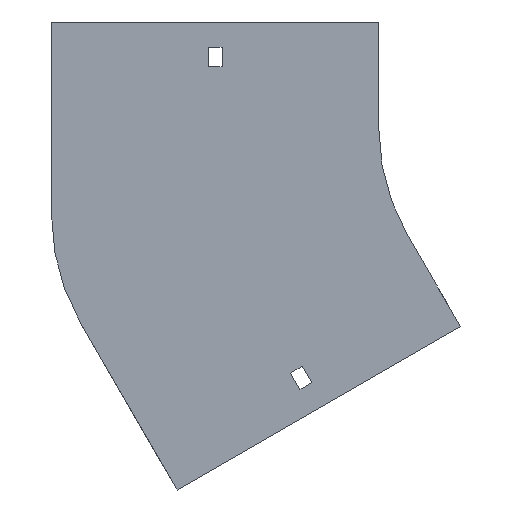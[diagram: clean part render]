
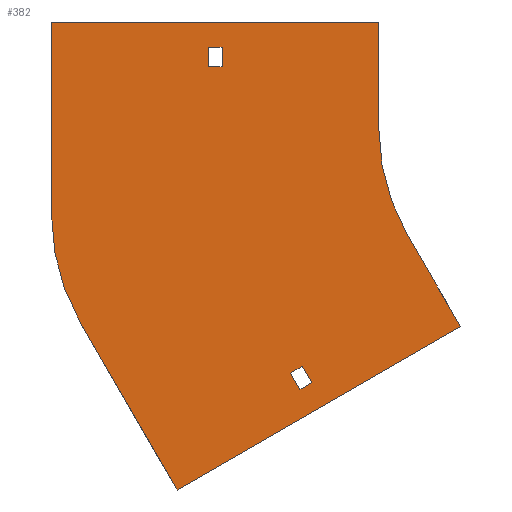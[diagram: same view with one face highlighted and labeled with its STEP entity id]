
A CAD part, front view. The second image highlights one B-rep face of the part: STEP entity #382.
In plain terms, the highlighted planar face has unit normal (0, -1, 0).
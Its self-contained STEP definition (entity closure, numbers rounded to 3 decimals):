
#18 = EDGE_CURVE ( 'NONE', #1760, #842, #1600, .T. ) ;
#24 = VERTEX_POINT ( 'NONE', #1779 ) ;
#37 = VERTEX_POINT ( 'NONE', #448 ) ;
#45 = CARTESIAN_POINT ( 'NONE',  ( -254., 0., 50. ) ) ;
#49 = LINE ( 'NONE', #1222, #1402 ) ;
#60 = DIRECTION ( 'NONE',  ( 0., 0., 1. ) ) ;
#67 = ORIENTED_EDGE ( 'NONE', *, *, #131, .F. ) ;
#71 = ORIENTED_EDGE ( 'NONE', *, *, #152, .F. ) ;
#72 = VECTOR ( 'NONE', #763, 1000. ) ;
#106 = EDGE_CURVE ( 'NONE', #394, #1276, #1884, .T. ) ;
#121 = CARTESIAN_POINT ( 'NONE',  ( 0., 0., 0. ) ) ;
#131 = EDGE_CURVE ( 'NONE', #842, #37, #1812, .T. ) ;
#139 = DIRECTION ( 'NONE',  ( 0., 0., -1. ) ) ;
#146 = VECTOR ( 'NONE', #1489, 1000. ) ;
#148 = LINE ( 'NONE', #575, #684 ) ;
#152 = EDGE_CURVE ( 'NONE', #298, #1059, #1867, .T. ) ;
#157 = LINE ( 'NONE', #1280, #409 ) ;
#167 = CARTESIAN_POINT ( 'NONE',  ( -194.97, 0., -170.301 ) ) ;
#198 = LINE ( 'NONE', #352, #1062 ) ;
#215 = LINE ( 'NONE', #1689, #1088 ) ;
#219 = CARTESIAN_POINT ( 'NONE',  ( -100., 0., 50. ) ) ;
#260 = ORIENTED_EDGE ( 'NONE', *, *, #1204, .T. ) ;
#298 = VERTEX_POINT ( 'NONE', #841 ) ;
#329 = CARTESIAN_POINT ( 'NONE',  ( -86.603, 0., -50. ) ) ;
#330 = ORIENTED_EDGE ( 'NONE', *, *, #802, .T. ) ;
#352 = CARTESIAN_POINT ( 'NONE',  ( -137.101, 0., -123.034 ) ) ;
#382 = ADVANCED_FACE ( 'NONE', ( #1435, #1897, #696 ), #1702, .T. ) ;
#389 = CARTESIAN_POINT ( 'NONE',  ( -194.97, 0., -170.301 ) ) ;
#394 = VERTEX_POINT ( 'NONE', #1312 ) ;
#409 = VECTOR ( 'NONE', #983, 1000. ) ;
#419 = DIRECTION ( 'NONE',  ( -1., 0., 0. ) ) ;
#424 = EDGE_CURVE ( 'NONE', #24, #1126, #148, .T. ) ;
#439 = EDGE_LOOP ( 'NONE', ( #1339, #536, #890, #1146, #1250, #67, #1314, #965 ) ) ;
#448 = CARTESIAN_POINT ( 'NONE',  ( -61.603, 0., -93.301 ) ) ;
#469 = CARTESIAN_POINT ( 'NONE',  ( -180.25, 0., 29. ) ) ;
#475 = VECTOR ( 'NONE', #1168, 1000. ) ;
#478 = DIRECTION ( 'NONE',  ( 1., 0., 0. ) ) ;
#501 = ORIENTED_EDGE ( 'NONE', *, *, #424, .T. ) ;
#536 = ORIENTED_EDGE ( 'NONE', *, *, #573, .F. ) ;
#564 = EDGE_CURVE ( 'NONE', #1368, #917, #1918, .T. ) ;
#572 = CARTESIAN_POINT ( 'NONE',  ( -254., 0., 50. ) ) ;
#573 = EDGE_CURVE ( 'NONE', #1276, #1368, #739, .T. ) ;
#575 = CARTESIAN_POINT ( 'NONE',  ( -173.75, 0., 29. ) ) ;
#595 = VECTOR ( 'NONE', #1665, 1000. ) ;
#596 = DIRECTION ( 'NONE',  ( 0., 0., 1. ) ) ;
#604 = AXIS2_PLACEMENT_3D ( 'NONE', #1097, #623, #60 ) ;
#623 = DIRECTION ( 'NONE',  ( 0., 1., 0. ) ) ;
#654 = CARTESIAN_POINT ( 'NONE',  ( -100., 0., 0. ) ) ;
#676 = CARTESIAN_POINT ( 'NONE',  ( -137.101, 0., -123.034 ) ) ;
#684 = VECTOR ( 'NONE', #1754, 1000. ) ;
#696 = FACE_BOUND ( 'NONE', #1800, .T. ) ;
#716 = EDGE_CURVE ( 'NONE', #917, #1760, #975, .T. ) ;
#718 = EDGE_CURVE ( 'NONE', #1852, #1594, #198, .T. ) ;
#721 = EDGE_CURVE ( 'NONE', #1594, #298, #1408, .T. ) ;
#739 = LINE ( 'NONE', #1320, #1566 ) ;
#748 = VECTOR ( 'NONE', #1876, 1000. ) ;
#753 = AXIS2_PLACEMENT_3D ( 'NONE', #121, #1191, #139 ) ;
#757 = CARTESIAN_POINT ( 'NONE',  ( -100., 0., 50. ) ) ;
#763 = DIRECTION ( 'NONE',  ( -0.5, 0., 0.866 ) ) ;
#786 = DIRECTION ( 'NONE',  ( -0.866, 0., -0.5 ) ) ;
#791 = DIRECTION ( 'NONE',  ( -0.5, 0., 0.866 ) ) ;
#802 = EDGE_CURVE ( 'NONE', #1126, #1349, #1598, .T. ) ;
#841 = CARTESIAN_POINT ( 'NONE',  ( -135.972, 0., -111.99 ) ) ;
#842 = VERTEX_POINT ( 'NONE', #329 ) ;
#854 = EDGE_CURVE ( 'NONE', #1892, #394, #1509, .T. ) ;
#865 = CARTESIAN_POINT ( 'NONE',  ( -180.25, 0., 29. ) ) ;
#890 = ORIENTED_EDGE ( 'NONE', *, *, #106, .F. ) ;
#914 = CARTESIAN_POINT ( 'NONE',  ( -180.25, 0., 38. ) ) ;
#917 = VERTEX_POINT ( 'NONE', #757 ) ;
#936 = AXIS2_PLACEMENT_3D ( 'NONE', #1105, #1284, #1406 ) ;
#965 = ORIENTED_EDGE ( 'NONE', *, *, #716, .F. ) ;
#975 = LINE ( 'NONE', #219, #1558 ) ;
#977 = EDGE_CURVE ( 'NONE', #37, #1892, #49, .T. ) ;
#979 = CARTESIAN_POINT ( 'NONE',  ( -173.75, 0., 29. ) ) ;
#983 = DIRECTION ( 'NONE',  ( 0.5, 0., -0.866 ) ) ;
#1033 = VECTOR ( 'NONE', #791, 1000. ) ;
#1059 = VERTEX_POINT ( 'NONE', #1859 ) ;
#1062 = VECTOR ( 'NONE', #1118, 1000. ) ;
#1071 = CARTESIAN_POINT ( 'NONE',  ( -86.603, 0., -50. ) ) ;
#1083 = DIRECTION ( 'NONE',  ( 0., 0., -1. ) ) ;
#1088 = VECTOR ( 'NONE', #478, 1000. ) ;
#1097 = CARTESIAN_POINT ( 'NONE',  ( -154., 0., -41.264 ) ) ;
#1105 = CARTESIAN_POINT ( 'NONE',  ( 0., 0., 0. ) ) ;
#1118 = DIRECTION ( 'NONE',  ( 0.866, 0., 0.5 ) ) ;
#1126 = VERTEX_POINT ( 'NONE', #979 ) ;
#1146 = ORIENTED_EDGE ( 'NONE', *, *, #854, .F. ) ;
#1149 = CARTESIAN_POINT ( 'NONE',  ( -254., 0., -41.264 ) ) ;
#1168 = DIRECTION ( 'NONE',  ( 1., 0., 0. ) ) ;
#1191 = DIRECTION ( 'NONE',  ( 0., -1., 0. ) ) ;
#1204 = EDGE_CURVE ( 'NONE', #1349, #1944, #1917, .T. ) ;
#1222 = CARTESIAN_POINT ( 'NONE',  ( -61.603, 0., -93.301 ) ) ;
#1236 = CARTESIAN_POINT ( 'NONE',  ( -135.972, 0., -111.99 ) ) ;
#1250 = ORIENTED_EDGE ( 'NONE', *, *, #977, .F. ) ;
#1276 = VERTEX_POINT ( 'NONE', #1149 ) ;
#1280 = CARTESIAN_POINT ( 'NONE',  ( -141.601, 0., -115.24 ) ) ;
#1284 = DIRECTION ( 'NONE',  ( 0., -1., 0. ) ) ;
#1312 = CARTESIAN_POINT ( 'NONE',  ( -240.603, 0., -91.264 ) ) ;
#1314 = ORIENTED_EDGE ( 'NONE', *, *, #18, .F. ) ;
#1315 = VECTOR ( 'NONE', #419, 1000. ) ;
#1317 = EDGE_LOOP ( 'NONE', ( #260, #1486, #501, #330 ) ) ;
#1319 = CARTESIAN_POINT ( 'NONE',  ( -180.25, 0., 29. ) ) ;
#1320 = CARTESIAN_POINT ( 'NONE',  ( -254., 0., -41.264 ) ) ;
#1339 = ORIENTED_EDGE ( 'NONE', *, *, #564, .F. ) ;
#1349 = VERTEX_POINT ( 'NONE', #469 ) ;
#1368 = VERTEX_POINT ( 'NONE', #45 ) ;
#1400 = EDGE_CURVE ( 'NONE', #1059, #1852, #157, .T. ) ;
#1402 = VECTOR ( 'NONE', #786, 1000. ) ;
#1406 = DIRECTION ( 'NONE',  ( 0., 0., -1. ) ) ;
#1408 = LINE ( 'NONE', #1236, #1033 ) ;
#1435 = FACE_BOUND ( 'NONE', #1317, .T. ) ;
#1466 = ORIENTED_EDGE ( 'NONE', *, *, #721, .F. ) ;
#1486 = ORIENTED_EDGE ( 'NONE', *, *, #1661, .T. ) ;
#1489 = DIRECTION ( 'NONE',  ( 0., 0., 1. ) ) ;
#1500 = ORIENTED_EDGE ( 'NONE', *, *, #718, .F. ) ;
#1509 = LINE ( 'NONE', #167, #72 ) ;
#1558 = VECTOR ( 'NONE', #1083, 1000. ) ;
#1566 = VECTOR ( 'NONE', #596, 1000. ) ;
#1594 = VERTEX_POINT ( 'NONE', #1631 ) ;
#1598 = LINE ( 'NONE', #865, #1315 ) ;
#1600 = CIRCLE ( 'NONE', #753, 100. ) ;
#1605 = ORIENTED_EDGE ( 'NONE', *, *, #1400, .F. ) ;
#1631 = CARTESIAN_POINT ( 'NONE',  ( -131.472, 0., -119.784 ) ) ;
#1661 = EDGE_CURVE ( 'NONE', #1944, #24, #215, .T. ) ;
#1665 = DIRECTION ( 'NONE',  ( 0.5, 0., -0.866 ) ) ;
#1689 = CARTESIAN_POINT ( 'NONE',  ( -180.25, 0., 38. ) ) ;
#1702 = PLANE ( 'NONE',  #936 ) ;
#1754 = DIRECTION ( 'NONE',  ( 0., 0., -1. ) ) ;
#1760 = VERTEX_POINT ( 'NONE', #654 ) ;
#1779 = CARTESIAN_POINT ( 'NONE',  ( -173.75, 0., 38. ) ) ;
#1800 = EDGE_LOOP ( 'NONE', ( #1500, #1605, #71, #1466 ) ) ;
#1812 = LINE ( 'NONE', #1071, #595 ) ;
#1852 = VERTEX_POINT ( 'NONE', #676 ) ;
#1859 = CARTESIAN_POINT ( 'NONE',  ( -141.601, 0., -115.24 ) ) ;
#1867 = LINE ( 'NONE', #1900, #748 ) ;
#1876 = DIRECTION ( 'NONE',  ( -0.866, 0., -0.5 ) ) ;
#1884 = CIRCLE ( 'NONE', #604, 100. ) ;
#1892 = VERTEX_POINT ( 'NONE', #389 ) ;
#1897 = FACE_OUTER_BOUND ( 'NONE', #439, .T. ) ;
#1900 = CARTESIAN_POINT ( 'NONE',  ( -141.601, 0., -115.24 ) ) ;
#1917 = LINE ( 'NONE', #1319, #146 ) ;
#1918 = LINE ( 'NONE', #572, #475 ) ;
#1944 = VERTEX_POINT ( 'NONE', #914 ) ;
